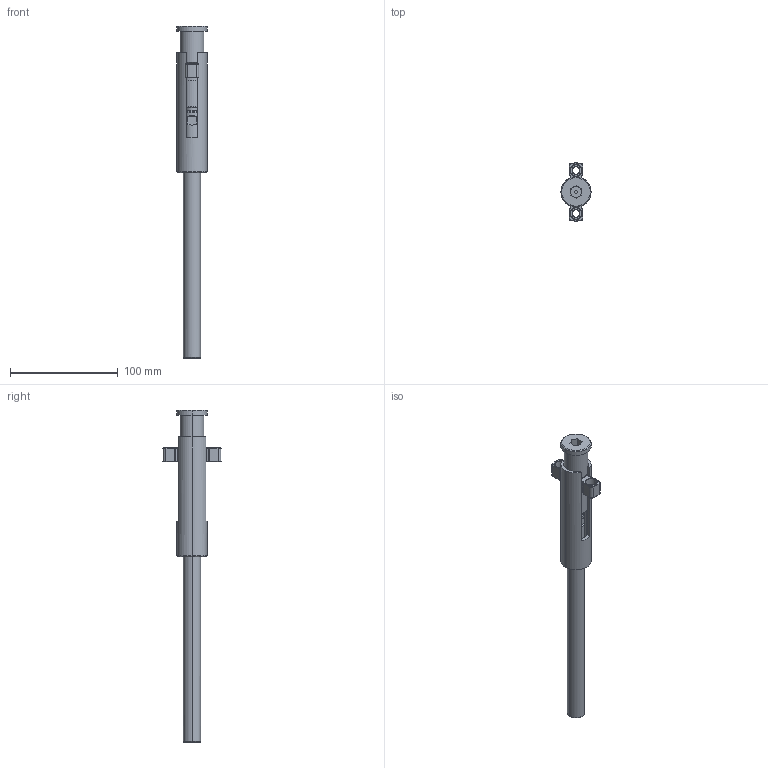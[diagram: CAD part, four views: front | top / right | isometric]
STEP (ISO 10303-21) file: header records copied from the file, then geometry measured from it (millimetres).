
FILE_DESCRIPTION (( 'STEP AP203' ), '1' );
FILE_NAME ('DKL2822.STEP', '2013-08-26T10:38:24', ( '' ), ( '' ), 'SwSTEP 2.0', 'SolidWorks 2013', '' );
FILE_SCHEMA (( 'CONFIG_CONTROL_DESIGN' ));
Length unit declared in the file: millimetre
Products named in the file (9): DKL2011; DKL2822; DKL2031; DKL2062; DKL2051; DKL2021; DKL2041; DKL2082; DKL2072
Assembly tree (11 placements, depth 2):
  DKL2822
    DKL2031
    DKL2062  x4
    DKL2051
    DKL2021
    DKL2041
    DKL2082
    DKL2072
    DKL2011
Bounding box: 28 x 53.93 x 308 mm (x, y, z)
Volume: 97242.5 mm3; surface area: 44245.6 mm2
Topology: 11 solids, 11 shells, 516 faces, 1218 edges, 736 vertices
Faces by surface type: plane 164, cone 141, cylinder 139, torus 54, bspline 18
Entity records: 17900 total; most frequent: CARTESIAN_POINT 6801, DIRECTION 2198, ORIENTED_EDGE 2052, EDGE_CURVE 1026, AXIS2_PLACEMENT_3D 883, VERTEX_POINT 625, EDGE_LOOP 483, CIRCLE 449
